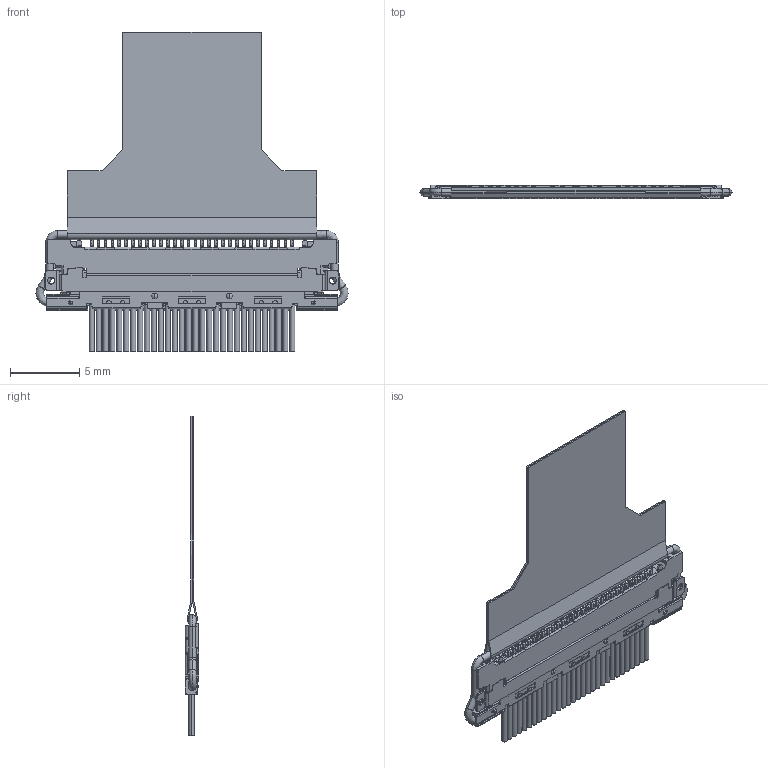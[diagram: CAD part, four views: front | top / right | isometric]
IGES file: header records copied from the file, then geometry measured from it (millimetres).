
Start section: SolidWorks IGES file using analytic representation for surfaces
Global section: file name: C:\3dwork\CAB-VS\20453-030T-x1C+20455-030E-x2C MATING IGES R8R6 ALL.IGS; native system: SolidWorks 2011; preprocessor: SolidWorks 2011; author: kaihatsu-3dcad-2; date: 120124.142710; units: millimetre
Bounding box: 22.55 x 1 x 23.11 mm (x, y, z)
Surface area: 1455.2 mm2 (no closed solid volume)
Topology: 0 solids, 0 shells, 3287 faces, 23242 edges, 23234 vertices
Faces by surface type: bspline 2322, revolution 965
